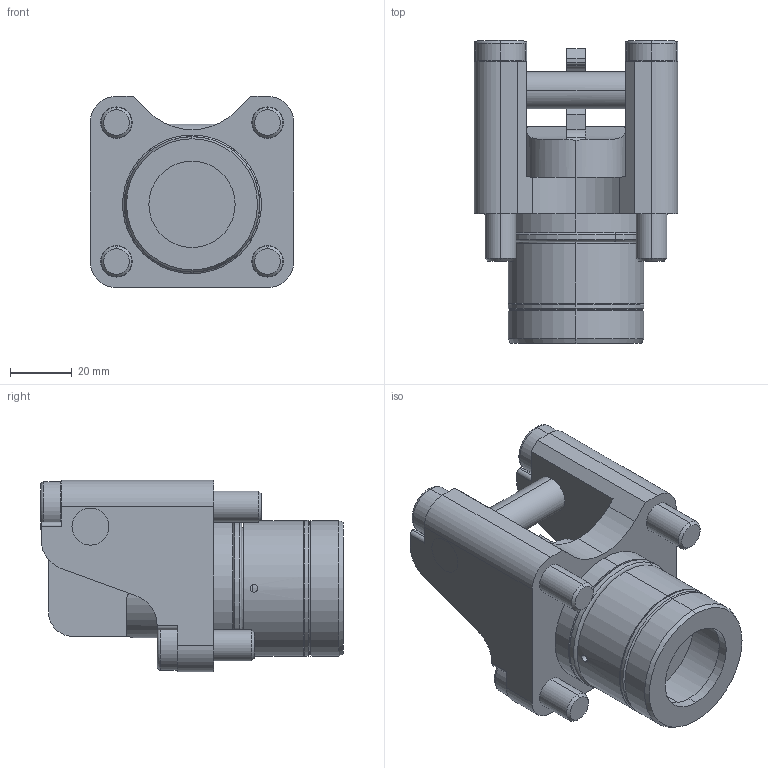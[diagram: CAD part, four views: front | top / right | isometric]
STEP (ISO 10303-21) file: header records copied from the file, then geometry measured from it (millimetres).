
FILE_DESCRIPTION (( 'STEP AP203' ), '1' );
FILE_NAME ('101595_Drehhebelspanner.STEP', '2013-04-19T06:04:07', ( '' ), ( '' ), 'SwSTEP 2.0', 'SolidWorks 2010', '' );
FILE_SCHEMA (( 'CONFIG_CONTROL_DESIGN' ));
Length unit declared in the file: millimetre
Products named in the file (8): 101595_Kolben; 101595_Drehhebelspanner; 101595_Lagerbolzen_Default; 101595_O-Ring_2_Default; 101595_Zylinderschraube_1_Default; 101595_Zylinderschraube_2_DIN 6912 - M10 x 25 --- 25N; 101595_Gehäuse_Default; 101595_O-Ring_1_Default
Assembly tree (9 placements, depth 2):
  101595_Drehhebelspanner
    101595_Zylinderschraube_2_DIN 6912 - M10 x 25 --- 25N  x2
    101595_O-Ring_2_Default
    101595_Zylinderschraube_1_Default  x2
    101595_Gehäuse_Default
    101595_O-Ring_1_Default
    101595_Kolben
    101595_Lagerbolzen_Default
Bounding box: 66 x 98.16 x 62 mm (x, y, z)
Volume: 165832 mm3; surface area: 56202.2 mm2
Topology: 9 solids, 9 shells, 269 faces, 659 edges, 404 vertices
Faces by surface type: plane 111, cylinder 106, cone 26, torus 26
Entity records: 7895 total; most frequent: CARTESIAN_POINT 1756, DIRECTION 1173, ORIENTED_EDGE 1062, EDGE_CURVE 531, AXIS2_PLACEMENT_3D 455, VERTEX_POINT 334, VECTOR 263, LINE 263
